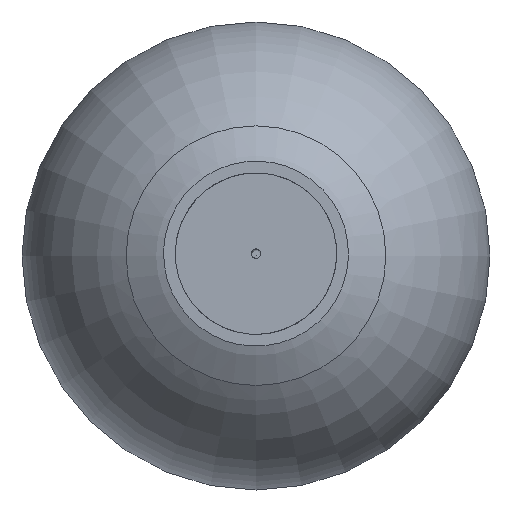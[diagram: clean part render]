
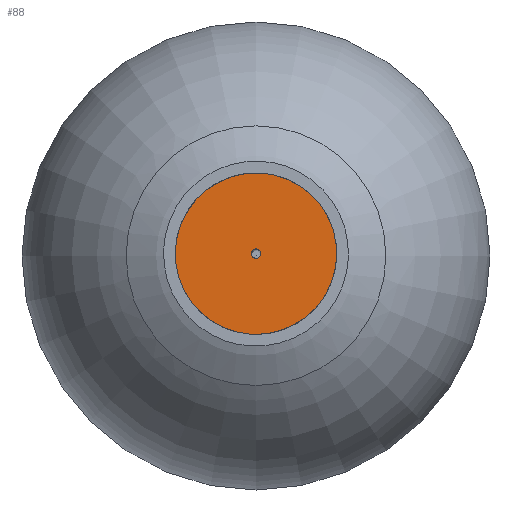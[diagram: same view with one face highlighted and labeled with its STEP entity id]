
A CAD part, top view. The second image highlights one B-rep face of the part: STEP entity #88.
In plain terms, the highlighted free-form (B-spline) face has degree [1, 1] with [2, 2] control points.
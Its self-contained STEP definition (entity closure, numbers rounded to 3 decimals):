
#88=ADVANCED_FACE('0:92',(#107,#108),#109,.F.);
#107=FACE_OUTER_BOUND('',#342,.T.);
#108=FACE_BOUND('',#343,.T.);
#109=B_SPLINE_SURFACE_WITH_KNOTS('',1,1,((#344,#345),(#346,#347)),.UNSPECIFIED.,.F.,.F.,.F.,(2,2),(2,2),(0.0,1.0),(0.0,1.0),.UNSPECIFIED.);
#342=EDGE_LOOP('',(#4879));
#343=EDGE_LOOP('',(#4880));
#344=CARTESIAN_POINT('',(8.708,1889.259,1164.476));
#345=CARTESIAN_POINT('',(-130.948,1889.259,1164.476));
#346=CARTESIAN_POINT('',(8.708,1749.603,1164.476));
#347=CARTESIAN_POINT('',(-130.948,1749.603,1164.476));
#4879=ORIENTED_EDGE('',*,*,#4923,.F.);
#4880=ORIENTED_EDGE('',*,*,#4921,.F.);
#4921=EDGE_CURVE('0:104',#4950,#4950,#4951,.T.);
#4923=EDGE_CURVE('0:98',#4954,#4954,#4955,.T.);
#4950=VERTEX_POINT('',#5006);
#4951=CIRCLE('',#5007,4.0);
#4954=VERTEX_POINT('',#5010);
#4955=CIRCLE('',#5011,69.0);
#5006=CARTESIAN_POINT('',(-61.369,1815.439,1164.476));
#5007=AXIS2_PLACEMENT_3D('',#5645,#5646,#5647);
#5010=CARTESIAN_POINT('',(-65.41,1750.565,1164.476));
#5011=AXIS2_PLACEMENT_3D('',#5651,#5652,#5653);
#5645=CARTESIAN_POINT('',(-61.12,1819.431,1164.476));
#5646=DIRECTION('',(0.,0.,1.0));
#5647=DIRECTION('',(-0.062,-0.998,0.));
#5651=CARTESIAN_POINT('',(-61.12,1819.431,1164.476));
#5652=DIRECTION('',(0.,0.,-1.0));
#5653=DIRECTION('',(-0.062,-0.998,0.));
